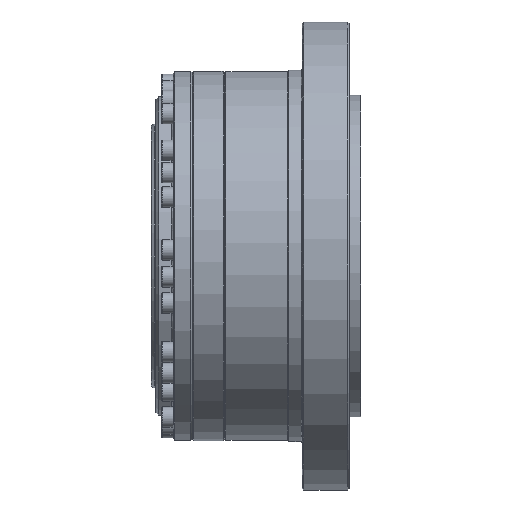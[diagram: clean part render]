
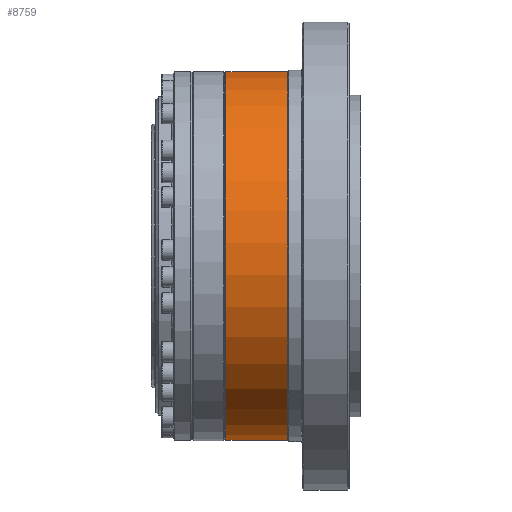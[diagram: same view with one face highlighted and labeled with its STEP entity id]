
A CAD part, front view. The second image highlights one B-rep face of the part: STEP entity #8759.
In plain terms, the highlighted cylindrical face has radius 63 mm (diameter 126 mm), a full revolution.
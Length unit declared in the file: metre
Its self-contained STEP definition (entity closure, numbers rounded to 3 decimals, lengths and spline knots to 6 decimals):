
#1391 = DIRECTION ( 'NONE',  ( 0., -0.275, 0.961 ) ) ;
#1807 = FACE_OUTER_BOUND ( 'NONE', #33384, .T. ) ;
#2924 = ORIENTED_EDGE ( 'NONE', *, *, #24939, .T. ) ;
#3918 = AXIS2_PLACEMENT_3D ( 'NONE', #30261, #33733, #27036 ) ;
#5628 = VERTEX_POINT ( 'NONE', #35652 ) ;
#7850 = FACE_OUTER_BOUND ( 'NONE', #32941, .T. ) ;
#8277 = CYLINDRICAL_SURFACE ( 'NONE', #16552, 0.063 ) ;
#8759 = ADVANCED_FACE ( 'NONE', ( #7850, #1807 ), #8277, .T. ) ;
#13584 = CIRCLE ( 'NONE', #3918, 0.063 ) ;
#14334 = CIRCLE ( 'NONE', #22592, 0.063 ) ;
#15577 = VERTEX_POINT ( 'NONE', #25311 ) ;
#16552 = AXIS2_PLACEMENT_3D ( 'NONE', #38083, #41527, #1391 ) ;
#20936 = CARTESIAN_POINT ( 'NONE',  ( -0.0014, 0., 0. ) ) ;
#21581 = ORIENTED_EDGE ( 'NONE', *, *, #25501, .T. ) ;
#21771 = DIRECTION ( 'NONE',  ( -1., 0., 0. ) ) ;
#22592 = AXIS2_PLACEMENT_3D ( 'NONE', #20936, #21771, #34742 ) ;
#24939 = EDGE_CURVE ( 'NONE', #5628, #5628, #13584, .T. ) ;
#25311 = CARTESIAN_POINT ( 'NONE',  ( -0.0014, -0.017321, 0.060572 ) ) ;
#25501 = EDGE_CURVE ( 'NONE', #15577, #15577, #14334, .T. ) ;
#27036 = DIRECTION ( 'NONE',  ( 0., -0.275, 0.961 ) ) ;
#30261 = CARTESIAN_POINT ( 'NONE',  ( -0.0224, 0., 0. ) ) ;
#32941 = EDGE_LOOP ( 'NONE', ( #21581 ) ) ;
#33384 = EDGE_LOOP ( 'NONE', ( #2924 ) ) ;
#33733 = DIRECTION ( 'NONE',  ( 1., 0., 0. ) ) ;
#34742 = DIRECTION ( 'NONE',  ( 0., -0.275, 0.961 ) ) ;
#35652 = CARTESIAN_POINT ( 'NONE',  ( -0.0224, -0.017321, 0.060572 ) ) ;
#38083 = CARTESIAN_POINT ( 'NONE',  ( -0.0261, 0., 0. ) ) ;
#41527 = DIRECTION ( 'NONE',  ( -1., 0., 0. ) ) ;
